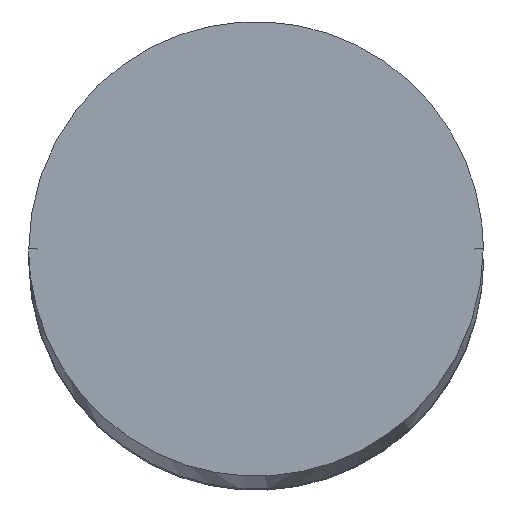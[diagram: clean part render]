
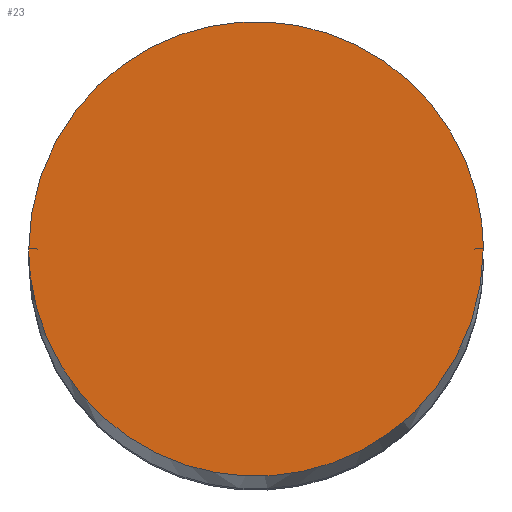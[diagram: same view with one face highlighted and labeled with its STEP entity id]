
A CAD part, top view. The second image highlights one B-rep face of the part: STEP entity #23.
In plain terms, the highlighted planar face has unit normal (0, 0, 1).
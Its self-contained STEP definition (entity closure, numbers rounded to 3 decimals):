
#23=ADVANCED_FACE('',(#36),#176,.T.);
#36=FACE_OUTER_BOUND('',#51,.T.);
#51=EDGE_LOOP('',(#81,#82));
#81=ORIENTED_EDGE('',*,*,#126,.F.);
#82=ORIENTED_EDGE('',*,*,#112,.F.);
#112=EDGE_CURVE('',#159,#168,#133,.T.);
#126=EDGE_CURVE('',#168,#159,#147,.T.);
#133=(
BOUNDED_CURVE()
B_SPLINE_CURVE(2,(#391,#392,#393,#394,#395),.UNSPECIFIED.,.F.,.F.)
B_SPLINE_CURVE_WITH_KNOTS((3,2,3),(-565.487,-424.115,
-282.743),.UNSPECIFIED.)
CURVE()
GEOMETRIC_REPRESENTATION_ITEM()
RATIONAL_B_SPLINE_CURVE((1.,0.707,1.,0.707,1.))
REPRESENTATION_ITEM('')
);
#147=(
BOUNDED_CURVE()
B_SPLINE_CURVE(2,(#463,#464,#465,#466,#467),.UNSPECIFIED.,.F.,.F.)
B_SPLINE_CURVE_WITH_KNOTS((3,2,3),(-282.743,-141.372,
0.),.UNSPECIFIED.)
CURVE()
GEOMETRIC_REPRESENTATION_ITEM()
RATIONAL_B_SPLINE_CURVE((1.,0.707,1.,0.707,1.))
REPRESENTATION_ITEM('')
);
#159=VERTEX_POINT('',#363);
#168=VERTEX_POINT('',#372);
#176=PLANE('',#275);
#275=AXIS2_PLACEMENT_3D('',#325,#285,$);
#285=DIRECTION('',(0.,0.,1.));
#325=CARTESIAN_POINT('',(1570.24,58.49,3200.));
#363=CARTESIAN_POINT('',(1390.24,-31.51,3200.));
#372=CARTESIAN_POINT('',(1570.24,-31.51,3200.));
#391=CARTESIAN_POINT('',(1390.24,-31.51,3200.));
#392=CARTESIAN_POINT('',(1390.24,58.49,3200.));
#393=CARTESIAN_POINT('',(1480.24,58.49,3200.));
#394=CARTESIAN_POINT('',(1570.24,58.49,3200.));
#395=CARTESIAN_POINT('',(1570.24,-31.51,3200.));
#463=CARTESIAN_POINT('',(1570.24,-31.51,3200.));
#464=CARTESIAN_POINT('',(1570.24,-121.51,3200.));
#465=CARTESIAN_POINT('',(1480.24,-121.51,3200.));
#466=CARTESIAN_POINT('',(1390.24,-121.51,3200.));
#467=CARTESIAN_POINT('',(1390.24,-31.51,3200.));
